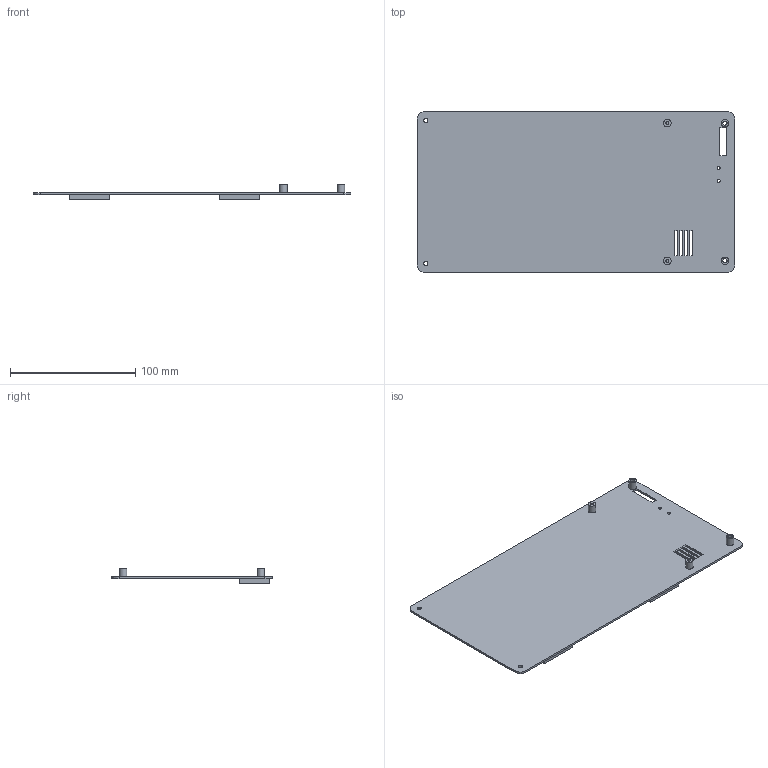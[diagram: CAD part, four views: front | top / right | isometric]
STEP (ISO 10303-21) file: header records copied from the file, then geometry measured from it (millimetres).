
FILE_DESCRIPTION(/* description */ ('STEP AP242 Edition 2','CAx-IF Rec.Pracs.---Representation and Presentation of Product Manufacturing Information (PMI)---4.0---2014-10-13','CAx-IF Rec.Pracs.---3D Tessellated Geometry---0.4---2014-09-14','2;1','CAx-IF Rec.Pracs.---User Defined Attributes---1.5---2016-08-15'),/* implementation_level */ '2;1');
FILE_NAME(/* name */ 'Part Studio 1 - Back cover (hinge side)',/* time_stamp */ '2026-11-26T14:54:19Z',/* author */ (''),/* organization */ (''),/* preprocessor_version */ 'ST-DEVELOPER v20',/* originating_system */ 'ONSHAPE BY PTC INC, 1.224',/* authorisation */ ' ');
FILE_SCHEMA (('AP242_MANAGED_MODEL_BASED_3D_ENGINEERING_MIM_LF { 1 0 10303 442 3 1 4 }'));
Length unit declared in the file: metre
Products named in the file (1): Back cover (hinge side)
Bounding box: 254 x 128.24 x 12.2 mm (x, y, z)
Volume: 58168.3 mm3; surface area: 67909.4 mm2
Topology: 1 solids, 1 shells, 66 faces, 156 edges, 104 vertices
Faces by surface type: plane 46, cylinder 20
Full cylindrical faces by diameter (mm): 2.4 x2, 2.5 x6, 3.4 x4, 6 x4
Entity records: 1886 total; most frequent: DIRECTION 314, CARTESIAN_POINT 311, ORIENTED_EDGE 280, EDGE_CURVE 140, EDGE_LOOP 116, FACE_BOUND 116, AXIS2_PLACEMENT_3D 107, VERTEX_POINT 104
